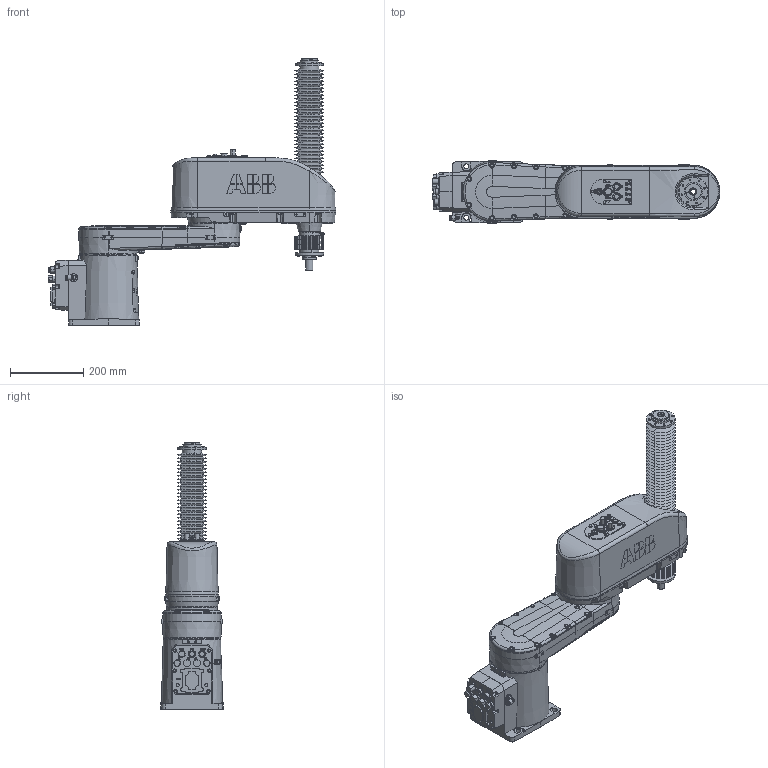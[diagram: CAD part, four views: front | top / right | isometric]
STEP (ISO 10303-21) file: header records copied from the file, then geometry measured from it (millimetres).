
FILE_DESCRIPTION (( 'STEP AP214' ), '1' );
FILE_NAME ('IRB920T_6kg-550-250-CR-STD_OmniCore_rev00_Assembly.step', '2021-10-28T02:22:23', ( '' ), ( '' ), 'SwSTEP 2.0', 'SolidWorks 2018', '' );
FILE_SCHEMA (( 'AUTOMOTIVE_DESIGN' ));
Length unit declared in the file: millimetre
Products named in the file (5): IRB920T_6kg-550-250-IP54CR-STD_OmniCore_rev00_LINK1_CAD; IRB920T_6kg-550-250-CR-STD_OmniCore_rev00_LINK0_CAD; IRB920T_6kg-550-250-CR-STD_OmniCore_rev00_Assembly; IRB920T_6kg-550-250-IP54CR-STD_OmniCore_rev00_LINK3_CAD; IRB920T_6kg-550-250-IP54CR-STD_OmniCore_rev00_LINK2_CAD
Assembly tree (4 placements, depth 2):
  IRB920T_6kg-550-250-CR-STD_OmniCore_rev00_Assembly
    IRB920T_6kg-550-250-CR-STD_OmniCore_rev00_LINK0_CAD
    IRB920T_6kg-550-250-IP54CR-STD_OmniCore_rev00_LINK1_CAD
    IRB920T_6kg-550-250-IP54CR-STD_OmniCore_rev00_LINK2_CAD
    IRB920T_6kg-550-250-IP54CR-STD_OmniCore_rev00_LINK3_CAD
Bounding box: 787 x 170 x 728.7 mm (x, y, z)
Volume: 20297937 mm3; surface area: 1184096.9 mm2
Topology: 4 solids, 4 shells, 2611 faces, 6534 edges, 4163 vertices
Faces by surface type: plane 1269, cone 483, cylinder 453, bspline 389, torus 14, sphere 3
Entity records: 107922 total; most frequent: CARTESIAN_POINT 38833, ORIENTED_EDGE 12918, DIRECTION 10795, EDGE_CURVE 6459, VERTEX_POINT 4162, VECTOR 3759, LINE 3759, AXIS2_PLACEMENT_3D 3518
